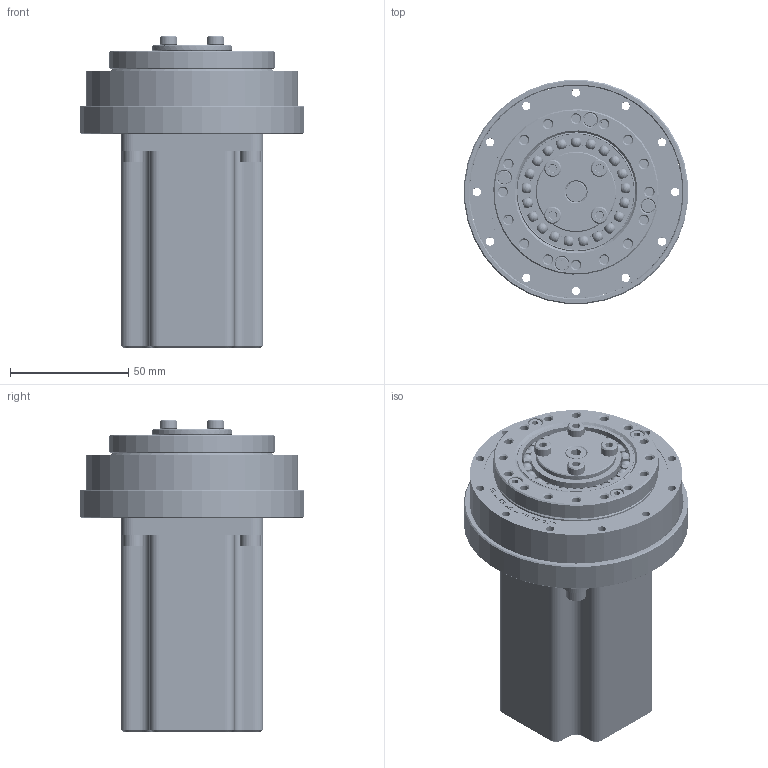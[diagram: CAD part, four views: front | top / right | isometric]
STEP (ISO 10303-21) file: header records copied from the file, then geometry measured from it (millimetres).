
FILE_DESCRIPTION(/* description */ (''),/* implementation_level */ '2;1');
FILE_NAME(/* name */ 'XBF20配60伺服电机安装方案.prt.step',/* time_stamp */ '2023-01-03T13:56:00+08:00',/* author */ (''),/* organization */ (''),/* preprocessor_version */ 'ST-DEVELOPER v16',/* originating_system */ 'SIEMENS PLM Software NX 10.0',/* authorisation */ '');
FILE_SCHEMA (('AUTOMOTIVE_DESIGN { 1 0 10303 214 3 1 1 1 }'));
Products named in the file (21): 20-柔性轴承保持架（日标）; XBK20-2柔轮; M3X10; XBK20-1钢轮; M2X6; XBK20-4-1-1 销子; G69785; XBK20-4-1内芯; XBK20-4-2外圈; O型圈53X1.8; YM3X8; M4X8; XBF20-3-2凸轮压板; 平键销5X12; XBS20-3-1凸轮; XBF20-5电机安装法兰; 60电机（高压400W); M5X12; 20-柔性轴承（日标）_MODEL; XBF20成品图_MODEL; XBF20配60伺服电机安装方案
Assembly tree (33 placements, depth 4):
  XBF20配60伺服电机安装方案
    M5X12  x5
    60电机（高压400W)
    XBF20-5电机安装法兰
    XBF20成品图_MODEL
      XBK20-4-2外圈
      XBK20-4-1内芯
      G69785
      XBK20-4-1-1 销子
      M2X6
      XBK20-1钢轮
      M3X10  x4
      XBK20-2柔轮
      20-柔性轴承（日标）_MODEL
        20-柔性轴承保持架（日标）
    XBS20-3-1凸轮
    平键销5X12
    XBF20-3-2凸轮压板
    M4X8  x4
    YM3X8  x4
    O型圈53X1.8
Bounding box: 94.64 x 94.64 x 131.94 mm (x, y, z)
Volume: 455736.2 mm3; surface area: 151325.1 mm2
Topology: 55 solids, 55 shells, 1250 faces, 3045 edges, 1953 vertices
Faces by surface type: plane 489, cylinder 309, cone 281, bspline 89, extrusion 42, sphere 21, torus 19
Full cylindrical faces by diameter (mm): 2.3 x1, 2.6 x20, 3.5 x76, 3.9 x12, 4 x2, 4.5 x4, 5.5 x1, 5.6 x8, 6 x12, 7.22 x4, 8.72 x5, 9 x1, 14 x2, 22 x1, 34 x1, 34.5 x1, 35.56 x1, 37 x1, 38.2 x2, 39.7 x1, 44 x1, 44.4 x1, 46 x2, 49.073 x2, 50 x3, 51.7 x1, 52 x1, 52.8 x1, 54 x2, 54.5 x1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
Entity records: 96626 total; most frequent: CARTESIAN_POINT 75599, DIRECTION 3974, ORIENTED_EDGE 3568, EDGE_CURVE 1784, AXIS2_PLACEMENT_3D 1674, EDGE_LOOP 1641, VERTEX_POINT 1386, FACE_BOUND 1208
